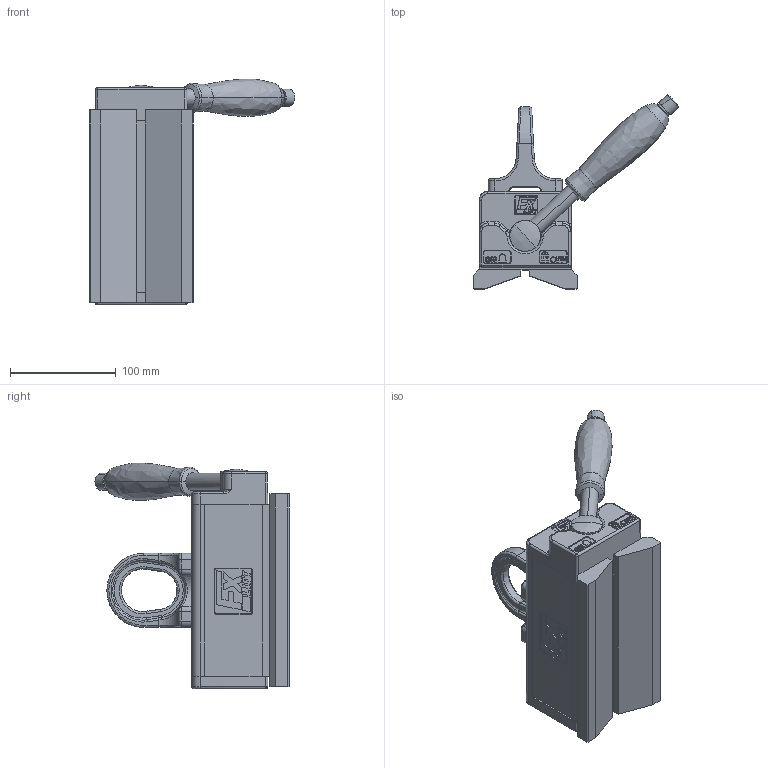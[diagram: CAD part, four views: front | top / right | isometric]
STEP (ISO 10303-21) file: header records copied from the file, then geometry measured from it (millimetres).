
FILE_DESCRIPTION (( 'STEP AP203' ), '1' );
FILE_NAME ('FX R 225 -Vertrieb.STEP', '2016-09-22T06:43:02', ( '' ), ( '' ), 'SwSTEP 2.0', 'SolidWorks 2013', '' );
FILE_SCHEMA (( 'CONFIG_CONTROL_DESIGN' ));
Products named in the file (1): FX R 225 -Vertrieb
Bounding box: 193.9 x 183.26 x 213.05 mm (x, y, z)
Volume: 1591569.6 mm3; surface area: 139628.3 mm2
Topology: 1 solids, 1 shells, 1182 faces, 2959 edges, 1709 vertices
Faces by surface type: bspline 430, plane 419, cylinder 161, cone 157, torus 10, sphere 5
Entity records: 72796 total; most frequent: CARTESIAN_POINT 48315, ORIENTED_EDGE 5660, DIRECTION 4086, EDGE_CURVE 2830, VERTEX_POINT 1707, VECTOR 1440, LINE 1440, AXIS2_PLACEMENT_3D 1323
